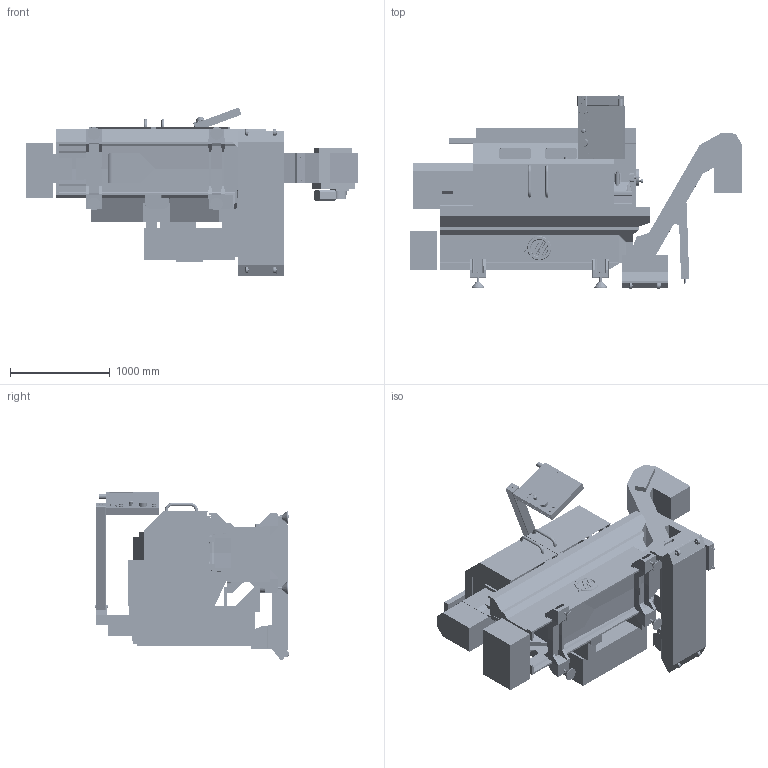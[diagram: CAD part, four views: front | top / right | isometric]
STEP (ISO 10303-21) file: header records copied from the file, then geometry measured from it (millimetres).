
FILE_DESCRIPTION (( 'STEP AP203' ), '1' );
FILE_NAME ('TL-1P_12_2024.STEP', '2024-12-04T01:35:06', ( '' ), ( '' ), 'SwSTEP 2.0', 'SolidWorks 2022', '' );
FILE_SCHEMA (( 'CONFIG_CONTROL_DESIGN' ));
Length unit declared in the file: inch
Products named in the file (21): TL-1P- Pump; TL-1P- Pendant; TL-1P- 20 gallon tank; TL-1P- ATT4 INCH; TL-1P- ATT4 METRIC; TL-1P_12_2024; TL-1P- Tail Stock; TL-1P- Enclosure; TL-1P- Saddle; TL-1P- 6 Inch Chuck; TL-1P- cross slide; TL-1P- Steady Rest; TL-1P- Spindle Head; TL-1P- 8 Station Tooling; TL-1P- 8 Station; TL-1P- Turret Housing; TL-1P- 5c Collet Chuck; TL-1P- Pendant Arm; TL-1P- Leveling Pads; TL-1P- Base; TL-1P- Conveyor
Assembly tree (20 placements, depth 2):
  TL-1P_12_2024
    TL-1P- Base
    TL-1P- Leveling Pads
    TL-1P- Saddle
    TL-1P- cross slide
    TL-1P- ATT4 INCH
    TL-1P- ATT4 METRIC
    TL-1P- 8 Station
    TL-1P- 8 Station Tooling
    TL-1P- Tail Stock
    TL-1P- 6 Inch Chuck
    TL-1P- Conveyor
    TL-1P- 20 gallon tank
    TL-1P- Enclosure
    TL-1P- Pendant Arm
    TL-1P- Pendant
    TL-1P- Steady Rest
    TL-1P- Pump
    TL-1P- Spindle Head
    TL-1P- 5c Collet Chuck
    TL-1P- Turret Housing
Bounding box: 3334.82 x 1951.62 x 1697.46 mm (x, y, z)
Volume: 1201531389.8 mm3; surface area: 43841297.3 mm2
Topology: 48 solids, 78 shells, 10269 faces, 27362 edges, 17562 vertices
Faces by surface type: plane 6423, cylinder 1951, bspline 922, cone 612, torus 304, sphere 57
Entity records: 365970 total; most frequent: CARTESIAN_POINT 113690, ORIENTED_EDGE 54456, DIRECTION 48123, EDGE_CURVE 27228, LINE 18957, VECTOR 18957, VERTEX_POINT 17558, AXIS2_PLACEMENT_3D 14583
